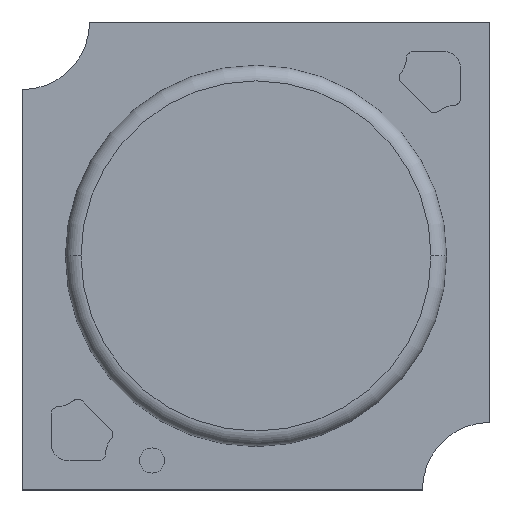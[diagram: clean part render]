
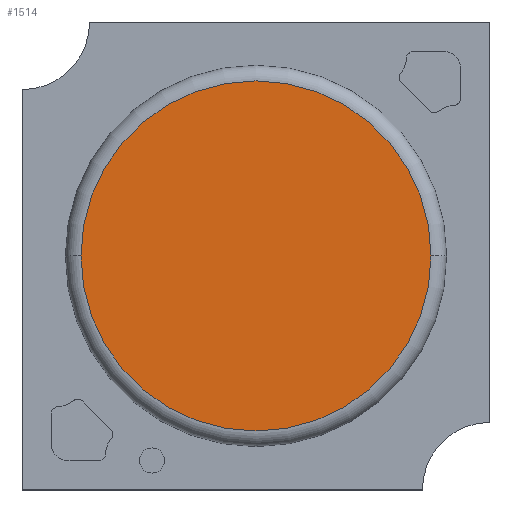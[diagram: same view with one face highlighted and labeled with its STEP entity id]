
A CAD part, top view. The second image highlights one B-rep face of the part: STEP entity #1514.
In plain terms, the highlighted planar face has unit normal (0, 0, 1).
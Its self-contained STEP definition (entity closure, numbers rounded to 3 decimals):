
#619=CARTESIAN_POINT('',(0.,0.,1.4));
#620=DIRECTION('',(0.,0.,1.));
#621=DIRECTION('',(1.,0.,0.));
#622=AXIS2_PLACEMENT_3D('',#619,#620,#621);
#627=CARTESIAN_POINT('',(0.,0.,1.4));
#628=DIRECTION('',(0.,0.,1.));
#629=DIRECTION('',(-1.,0.,0.));
#630=AXIS2_PLACEMENT_3D('',#627,#628,#629);
#889=CARTESIAN_POINT('',(-5.05,0.,1.4));
#891=VERTEX_POINT('',#889);
#931=CARTESIAN_POINT('',(5.05,0.,1.4));
#933=VERTEX_POINT('',#931);
#1504=CARTESIAN_POINT('',(-5.05,0.,1.4));
#1505=DIRECTION('',(0.,0.,-1.));
#1506=DIRECTION('',(-1.,0.,0.));
#1507=AXIS2_PLACEMENT_3D('',#1504,#1505,#1506);
#1508=PLANE('',#1507);
#1509=ORIENTED_EDGE('',*,*,#1487,.F.);
#1511=ORIENTED_EDGE('',*,*,#1510,.F.);
#1512=EDGE_LOOP('',(#1509,#1511));
#1513=FACE_OUTER_BOUND('',#1512,.F.);
#623=CIRCLE('',#622,5.05);
#631=CIRCLE('',#630,5.05);
#1487=EDGE_CURVE('',#933,#891,#623,.T.);
#1510=EDGE_CURVE('',#891,#933,#631,.T.);
#1514=ADVANCED_FACE('',(#1513),#1508,.F.);
